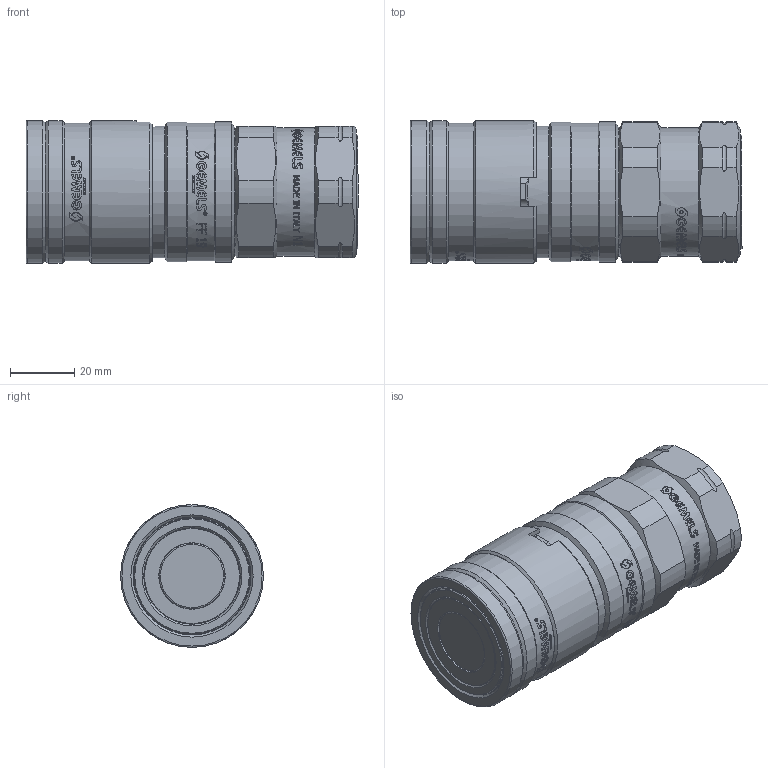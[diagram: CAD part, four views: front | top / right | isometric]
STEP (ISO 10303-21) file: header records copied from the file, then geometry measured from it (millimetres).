
FILE_DESCRIPTION(/* description */ (''),/* implementation_level */ '2;1');
FILE_NAME(/* name */ 'NC06N050000.stp',/* time_stamp */ '2024-08-26T16:45:23+02:00',/* author */ ('thomas.belotti'),/* organization */ (''),/* preprocessor_version */ 'ST-DEVELOPER v20',/* originating_system */ 'Autodesk Inventor 2024',/* authorisation */ '');
FILE_SCHEMA (('AUTOMOTIVE_DESIGN { 1 0 10303 214 3 1 1 }'));
Products named in the file (1): Parte17
Bounding box: 103.51 x 44.5 x 44.5 mm (x, y, z)
Volume: 134195.2 mm3; surface area: 28424.1 mm2
Topology: 1 solids, 3 shells, 1749 faces, 4927 edges, 3280 vertices
Faces by surface type: bspline 1146, plane 442, cylinder 130, cone 19, torus 12
Full cylindrical faces by diameter (mm): 20.55 x1, 20.75 x1, 29 x1, 30 x1, 30.1 x1, 31 x1, 35.5 x1, 36.3 x1, 36.7 x1, 37 x1, 37.3 x1, 40 x1, 40.552 x2, 40.9 x2, 41.1 x1, 43 x2, 43.6 x1, 43.7 x1, 44.5 x3
Entity records: 75078 total; most frequent: CARTESIAN_POINT 36027, ORIENTED_EDGE 9854, EDGE_CURVE 4927, DIRECTION 4085, VERTEX_POINT 3280, B_SPLINE_CURVE_WITH_KNOTS 2528, LINE 1861, VECTOR 1861
